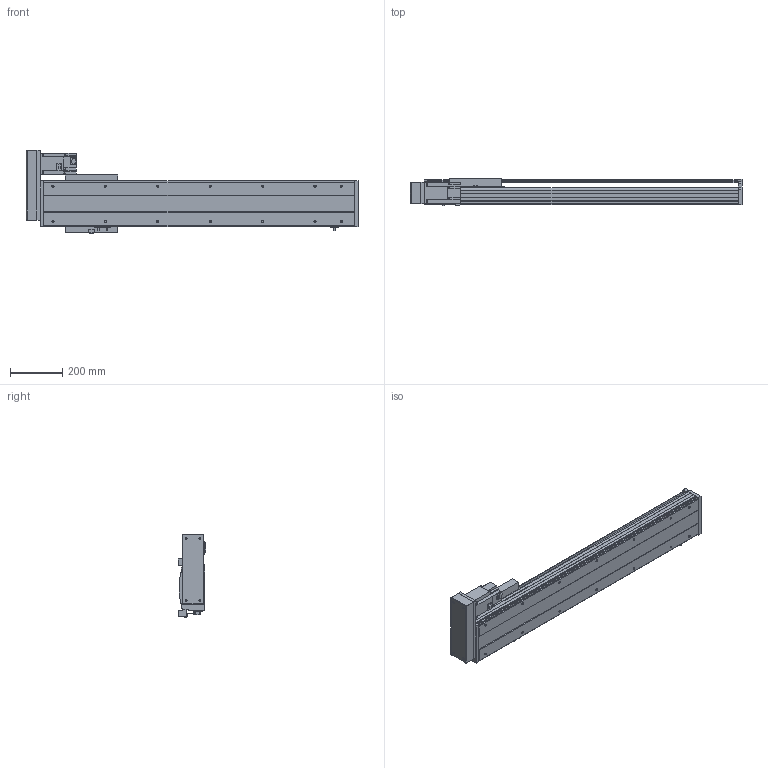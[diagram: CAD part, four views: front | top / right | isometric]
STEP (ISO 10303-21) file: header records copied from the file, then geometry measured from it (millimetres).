
FILE_DESCRIPTION( ( 'STEP AP214' ), '1' );
FILE_NAME( 'x:/temp/worker_27/temp/exporttempdir_6708_446_KQjE6/format_0/PSS200-L10-S850-BL-T75-C1-N(0).stp', '2022-06-06T02:50:19', ( 'License CC BY-ND 4.0' ), ( 'CADENAS' ), ' ', 'PARTsolutions', ' ' );
FILE_SCHEMA( ( 'AUTOMOTIVE_DESIGN { 1 0 10303 214 1 1 1 1 }' ) );
Length unit declared in the file: millimetre
Products named in the file (8): PSS200-L10-S850-BL-T75-C1-N(0); _PSS200-S850-BL-C1-N_body; _PSS200-N_Q; _PSS200-BL-C1-N_sl; _PSS200-N_sensor; _PSS200BL-N_h; _T75-p1; _PSS200-S850-BL-N_S
Assembly tree (9 placements, depth 2):
  PSS200-L10-S850-BL-T75-C1-N(0)
    _PSS200-S850-BL-C1-N_body
    _PSS200-N_Q
    _PSS200-BL-C1-N_sl
    _PSS200-N_sensor  x3
    _PSS200BL-N_h
    _T75-p1
    _PSS200-S850-BL-N_S
Bounding box: 1266.85 x 105.3 x 317.86 mm (x, y, z)
Volume: 8752159.7 mm3; surface area: 2017938.6 mm2
Topology: 9 solids, 9 shells, 608 faces, 1621 edges, 1070 vertices
Faces by surface type: plane 466, cylinder 116, cone 22, sphere 4
Full cylindrical faces by diameter (mm): 4 x2, 4.5 x4, 6 x7, 6.647 x18, 7.4 x4, 8 x8, 10 x6, 25 x1, 40 x1, 67 x1
Entity records: 21210 total; most frequent: CARTESIAN_POINT 2891, DIRECTION 2792, ORIENTED_EDGE 2750, EDGE_CURVE 1375, LINE 1090, VECTOR 1090, VERTEX_POINT 950, AXIS2_PLACEMENT_3D 851
